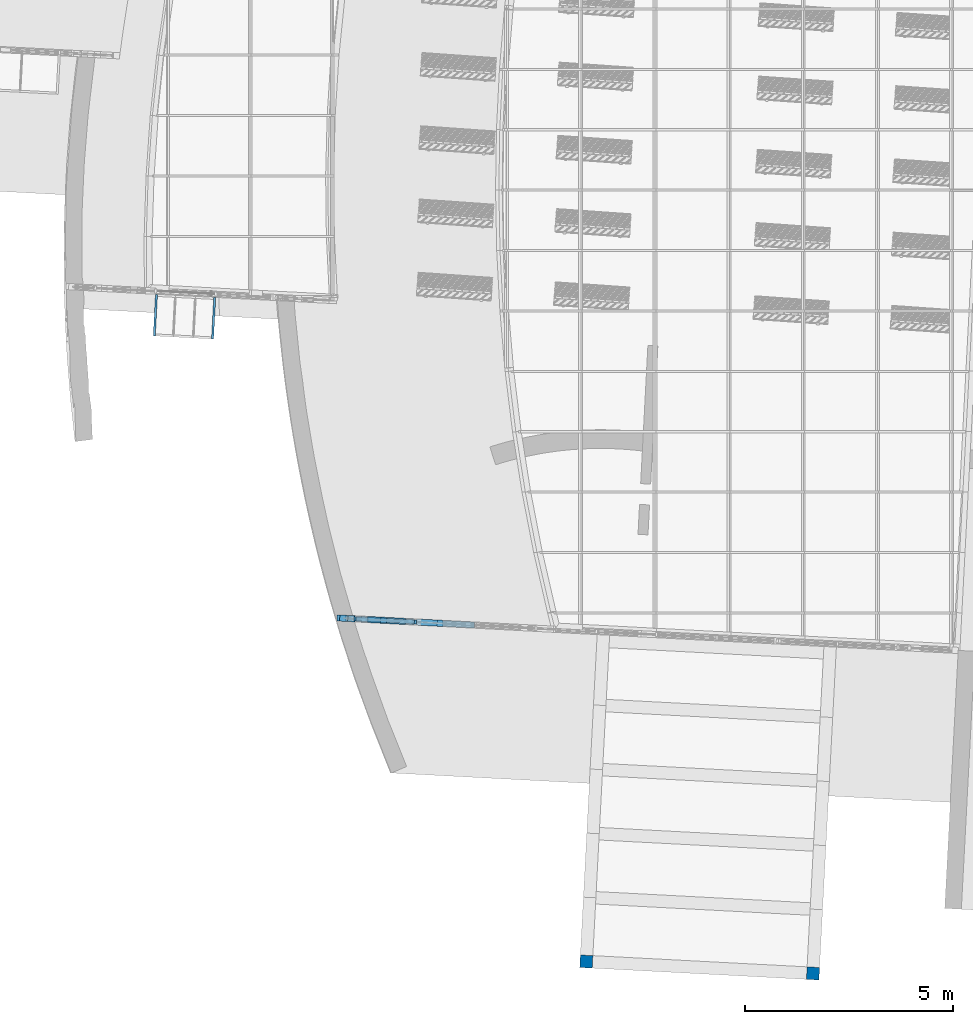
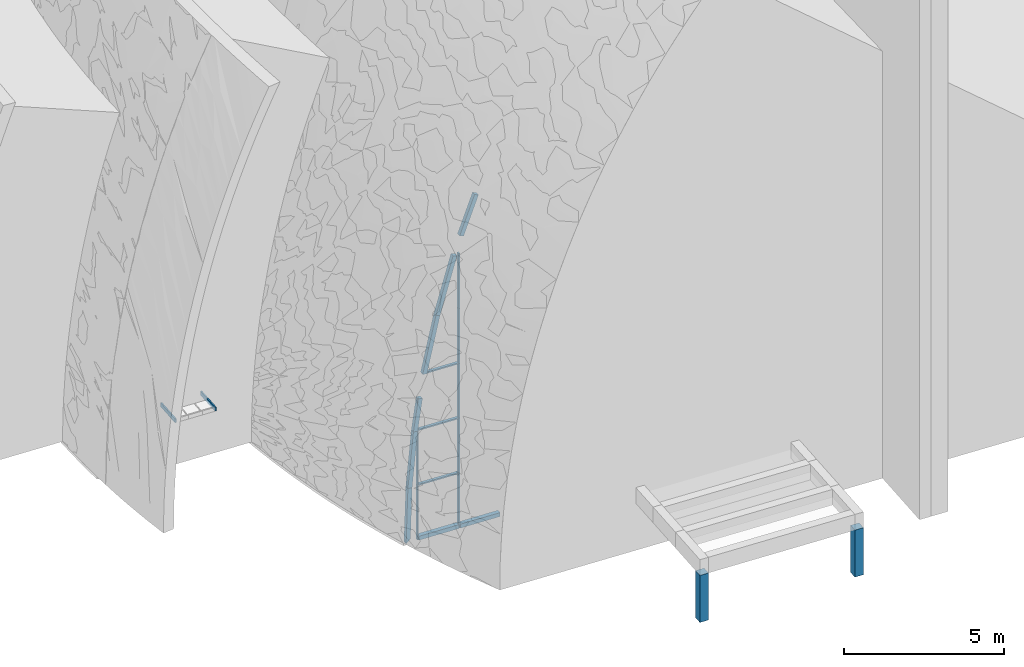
# One storey, part 1 of 82: 21 members, 2 columns, 2 elements without a shape of their own.
"""IFC2X3 building model written with IfcOpenShell, lengths in millimetres."""

from ifc_helpers import new_model, entity, si_unit, converted_unit, derived_unit, direction, frame, frame_2d, origin, origin_2d_with_axis, place, context, subcontext, project, spatial, rectangle, extrude, clip, halfspace, source, transform, mapped, material, type_object, type_shapes, element, aggregate, save


model = new_model("IFC2X3")

# Units and contexts
model_context = context("Model", 3, precision=0.01, world=origin(), true_north=direction((6.12303176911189e-17, 1.0)))
body_context = subcontext(model_context, "Body", "Model", "MODEL_VIEW")
ifc_project = project(units=[si_unit("LENGTHUNIT", "METRE", prefix="MILLI"), si_unit("AREAUNIT", "SQUARE_METRE"), si_unit("VOLUMEUNIT", "CUBIC_METRE"), converted_unit("PLANEANGLEUNIT", "DEGREE", entity("IfcRatioMeasure", 0.0174532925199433), si_unit("PLANEANGLEUNIT", "RADIAN"), dimensions=[0, 0, 0, 0, 0, 0, 0]), si_unit("MASSUNIT", "GRAM", prefix="KILO"), derived_unit("MASSDENSITYUNIT", [(si_unit("MASSUNIT", "GRAM", prefix="KILO"), 1), (si_unit("LENGTHUNIT", "METRE"), -3)]), si_unit("TIMEUNIT", "SECOND"), si_unit("FREQUENCYUNIT", "HERTZ"), si_unit("THERMODYNAMICTEMPERATUREUNIT", "DEGREE_CELSIUS"), derived_unit("THERMALTRANSMITTANCEUNIT", [(si_unit("MASSUNIT", "GRAM", prefix="KILO"), 1), (si_unit("THERMODYNAMICTEMPERATUREUNIT", "KELVIN"), -1), (si_unit("TIMEUNIT", "SECOND"), -3)]), derived_unit("VOLUMETRICFLOWRATEUNIT", [(si_unit("LENGTHUNIT", "METRE"), 3), (si_unit("TIMEUNIT", "SECOND"), -1)]), si_unit("ELECTRICCURRENTUNIT", "AMPERE"), si_unit("ELECTRICVOLTAGEUNIT", "VOLT"), si_unit("POWERUNIT", "WATT"), si_unit("FORCEUNIT", "NEWTON", prefix="KILO"), si_unit("ILLUMINANCEUNIT", "LUX"), si_unit("LUMINOUSFLUXUNIT", "LUMEN"), si_unit("LUMINOUSINTENSITYUNIT", "CANDELA"), derived_unit("USERDEFINED", [(si_unit("MASSUNIT", "GRAM", prefix="KILO"), -1), (si_unit("LENGTHUNIT", "METRE"), -2), (si_unit("TIMEUNIT", "SECOND"), 3), (si_unit("LUMINOUSFLUXUNIT", "LUMEN"), 1)]), derived_unit("LINEARVELOCITYUNIT", [(si_unit("LENGTHUNIT", "METRE"), 1), (si_unit("TIMEUNIT", "SECOND"), -1)]), si_unit("PRESSUREUNIT", "PASCAL"), derived_unit("USERDEFINED", [(si_unit("LENGTHUNIT", "METRE"), -2), (si_unit("MASSUNIT", "GRAM", prefix="KILO"), 1), (si_unit("TIMEUNIT", "SECOND"), -2)])], contexts=[model_context])

# Site, building, storey
site_placement = place(None, origin())
site = spatial("IfcSite", under=ifc_project, at=site_placement, Name="表面", CompositionType="ELEMENT")
building_placement = place(site_placement, origin())
building = spatial("IfcBuilding", under=site, at=building_placement, CompositionType="ELEMENT")
storey_placement = place(building_placement, origin())
storey = spatial("IfcBuildingStorey", under=building, at=storey_placement, Name="1F", CompositionType="ELEMENT", Elevation=0.0)

# Columns
ifc_material_1 = material(Name="柱")
column_type_1 = type_object("IfcColumnType", Name="300 x 300mm", PredefinedType="COLUMN")
shared_shape_1 = source(origin(), body_context, "Body", "SweptSolid", [
    extrude(rectangle(XDim=300.000000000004, YDim=299.999999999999, at=frame_2d((1.27897692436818e-13, -2.1600499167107e-12), x_axis=(1.0, 0.0))), frame((-23246.1615271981, -36540.7219186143, 0.0), z_axis=(0.0, 0.0, 1.0), x_axis=(0.0523359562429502, 0.998629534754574, 0.0)), (0.0, 0.0, 1.0), 1800.00000000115),
])
type_shapes(column_type_1, [shared_shape_1])
column_1_placement = place(storey_placement, origin())
element("IfcColumn", 1, at=column_1_placement, inside=storey, type_object=column_type_1, material=ifc_material_1, Name="矩形柱:300 x 300mm", ObjectType="300 x 300mm", context=body_context, shape_type="MappedRepresentation", body=[
    mapped(shared_shape_1, transform((0.0, 0.0, 0.0), scale=1.0)),
])
column_type_2 = type_object("IfcColumnType", Name="300 x 300mm", PredefinedType="COLUMN")
shared_shape_2 = source(origin(), body_context, "Body", "SweptSolid", [
    extrude(rectangle(XDim=300.000000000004, YDim=299.999999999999, at=frame_2d((1.27897692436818e-13, -2.1600499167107e-12), x_axis=(1.0, 0.0))), frame((-28688.6924916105, -36255.4909570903, 0.0), z_axis=(0.0, 0.0, 1.0), x_axis=(0.0523359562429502, 0.998629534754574, 0.0)), (0.0, 0.0, 1.0), 1800.00000000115),
])
type_shapes(column_type_2, [shared_shape_2])
column_2_placement = place(storey_placement, origin())
element("IfcColumn", 2, at=column_2_placement, inside=storey, type_object=column_type_2, material=ifc_material_1, Name="矩形柱:300 x 300mm", ObjectType="300 x 300mm", context=body_context, shape_type="MappedRepresentation", body=[
    mapped(shared_shape_2, transform((0.0, 0.0, 0.0), scale=1.0)),
])

# Curtain wall, members
curtain_wall_type_1 = type_object("IfcCurtainWallType", Name="幕墙系统:1450 x 2100mm", PredefinedType="NOTDEFINED")
curtain_wall_placement = place(storey_placement, origin())
curtain_wall = element("IfcCurtainWall", 3, at=curtain_wall_placement, inside=storey, type_object=curtain_wall_type_1, Name="幕墙系统:1450 x 2100mm", ObjectType="幕墙系统:1450 x 2100mm")
ifc_material_2 = material(Name="金属 - 铝")
member_type_1 = type_object("IfcMemberType", Name="50 x 100mm", PredefinedType="MEMBER")
shared_shape_3 = source(origin(), body_context, "Body", "SweptSolid", [
    extrude(rectangle(XDim=100.0, YDim=50.0, at=origin_2d_with_axis()), frame((0.0, 0.0, -1400.0), z_axis=(0.0, 0.0, 1.0), x_axis=(0.0, -1.0, 0.0)), (0.0, 0.0, 1.0), 1400.0),
])
type_shapes(member_type_1, [shared_shape_3])
member_1_placement = place(storey_placement, frame((-32817.6944215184, -28103.2232932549, 2100.0), z_axis=(0.998629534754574, -0.0523359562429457, 0.0), x_axis=(0.0, 0.0, 1.0)))
member_1 = element("IfcMember", 4, at=member_1_placement, type_object=member_type_1, material=ifc_material_2, Name="矩形竖梃:50 x 100mm", ObjectType="50 x 100mm", context=body_context, shape_type="MappedRepresentation", body=[
    mapped(shared_shape_3, transform((0.0, 0.0, 0.0), scale=1.0)),
])
placement_1 = place(building_placement, frame((0.0, 0.0, 3000.0)))
member_2_placement = place(placement_1, frame((-32817.6944215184, -28103.2232932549, 1200.0), z_axis=(0.998629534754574, -0.0523359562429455, 0.0), x_axis=(0.0, 0.0, 1.0)))
member_2 = element("IfcMember", 5, at=member_2_placement, type_object=member_type_1, material=ifc_material_2, Name="矩形竖梃:50 x 100mm", ObjectType="50 x 100mm", context=body_context, shape_type="MappedRepresentation", body=[
    mapped(shared_shape_3, transform((0.0, 0.0, 0.0), scale=1.0)),
])
member_type_2 = type_object("IfcMemberType", Name="50 x 100mm", PredefinedType="MEMBER")
shared_shape_4 = source(origin(), body_context, "Body", "SweptSolid", [
    extrude(rectangle(XDim=100.0, YDim=50.0, at=origin_2d_with_axis()), frame((0.0, 0.0, -2100.0), z_axis=(0.0, 0.0, 1.0), x_axis=(0.0, -1.0, 0.0)), (0.0, 0.0, 1.0), 2100.0),
])
type_shapes(member_type_2, [shared_shape_4])
member_3_placement = place(storey_placement, frame((-32792.7286831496, -28104.5316921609, 2100.0), z_axis=(0.0, 0.0, 1.0), x_axis=(-0.998629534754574, 0.0523359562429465, 0.0)))
member_3 = element("IfcMember", 6, at=member_3_placement, type_object=member_type_2, material=ifc_material_2, Name="矩形竖梃:50 x 100mm", ObjectType="50 x 100mm", context=body_context, shape_type="MappedRepresentation", body=[
    mapped(shared_shape_4, transform((0.0, 0.0, 0.0), scale=1.0)),
])
member_4_placement = place(storey_placement, frame((-34240.7415085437, -28028.6445556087, 2100.0), z_axis=(0.0, 0.0, 1.0), x_axis=(-0.998629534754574, 0.0523359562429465, 0.0)))
member_4 = element("IfcMember", 7, at=member_4_placement, type_object=member_type_2, material=ifc_material_2, Name="矩形竖梃:50 x 100mm", ObjectType="50 x 100mm", context=body_context, shape_type="MappedRepresentation", body=[
    mapped(shared_shape_4, transform((0.0, 0.0, 0.0), scale=1.0)),
])
member_type_3 = type_object("IfcMemberType", Name="50 x 100mm", PredefinedType="MEMBER")
shared_shape_5 = source(origin(), body_context, "Body", "SweptSolid", [
    extrude(rectangle(XDim=100.0, YDim=50.0, at=origin_2d_with_axis()), frame((0.0, 0.0, -2100.0), z_axis=(0.0, 0.0, 1.0), x_axis=(0.0, -1.0, 0.0)), (0.0, 0.0, 1.0), 2100.0),
])
type_shapes(member_type_3, [shared_shape_5])
member_5_placement = place(storey_placement, frame((-32792.7286831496, -28104.5316921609, 4200.0), z_axis=(0.0, 0.0, 1.0), x_axis=(-0.998629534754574, 0.0523359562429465, 0.0)))
member_5 = element("IfcMember", 8, at=member_5_placement, type_object=member_type_3, material=ifc_material_2, Name="矩形竖梃:50 x 100mm", ObjectType="50 x 100mm", context=body_context, shape_type="MappedRepresentation", body=[
    mapped(shared_shape_5, transform((0.0, 0.0, 0.0), scale=1.0)),
])
member_6_placement = place(storey_placement, frame((-34240.7415085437, -28028.6445556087, 4200.0), z_axis=(0.0, 0.0, 1.0), x_axis=(-0.998629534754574, 0.0523359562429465, 0.0)))
member_6 = element("IfcMember", 9, at=member_6_placement, type_object=member_type_3, material=ifc_material_2, Name="矩形竖梃:50 x 100mm", ObjectType="50 x 100mm", context=body_context, shape_type="MappedRepresentation", body=[
    mapped(shared_shape_5, transform((0.0, 0.0, 0.0), scale=1.0)),
])
member_7_placement = place(placement_1, frame((-32792.7286831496, -28104.5316921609, 3300.0), z_axis=(0.0, 0.0, 1.0), x_axis=(-0.998629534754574, 0.0523359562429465, 0.0)))
member_7 = element("IfcMember", 10, at=member_7_placement, type_object=member_type_3, material=ifc_material_2, Name="矩形竖梃:50 x 100mm", ObjectType="50 x 100mm", context=body_context, shape_type="MappedRepresentation", body=[
    mapped(shared_shape_5, transform((0.0, 0.0, 0.0), scale=1.0)),
])
placement_2 = place(building_placement, frame((0.0, 0.0, 6000.0)))
member_8_placement = place(placement_2, frame((-32792.7286831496, -28104.5316921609, 2400.0), z_axis=(0.0, 0.0, 1.0), x_axis=(-0.998629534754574, 0.0523359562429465, 0.0)))
member_8 = element("IfcMember", 11, at=member_8_placement, type_object=member_type_3, material=ifc_material_2, Name="矩形竖梃:50 x 100mm", ObjectType="50 x 100mm", context=body_context, shape_type="MappedRepresentation", body=[
    mapped(shared_shape_5, transform((0.0, 0.0, 0.0), scale=1.0)),
])
member_9_placement = place(placement_2, frame((-32792.7286831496, -28104.5316921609, 4500.0), z_axis=(0.0, 0.0, 1.0), x_axis=(-0.998629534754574, 0.0523359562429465, 0.0)))
member_9 = element("IfcMember", 12, at=member_9_placement, type_object=member_type_3, material=ifc_material_2, Name="矩形竖梃:50 x 100mm", ObjectType="50 x 100mm", context=body_context, shape_type="MappedRepresentation", body=[
    mapped(shared_shape_5, transform((0.0, 0.0, 0.0), scale=1.0)),
])
ifc_material_3 = material(Name="木质 - 木材")
member_type_4 = type_object("IfcMemberType", Name="200 x 150mm", PredefinedType="MEMBER")
shared_shape_6 = source(origin(), body_context, "Body", "SweptSolid", [
    extrude(rectangle(XDim=150.0, YDim=150.0, at=origin_2d_with_axis()), frame((-75.0, 0.0, -1400.0), z_axis=(0.0, 0.0, 1.0), x_axis=(0.0, -1.0, 0.0)), (0.0, 0.0, 1.0), 1400.0),
])
type_shapes(member_type_4, [shared_shape_6])
member_10_placement = place(storey_placement, frame((-32767.7629447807, -28105.840091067, 0.0), z_axis=(-0.998629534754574, 0.0523359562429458, 0.0), x_axis=(0.0, 0.0, -1.0)))
member_10 = element("IfcMember", 13, at=member_10_placement, type_object=member_type_4, material=ifc_material_3, Name="矩形竖梃:200 x 150mm", ObjectType="200 x 150mm", context=body_context, shape_type="MappedRepresentation", body=[
    mapped(shared_shape_6, transform((0.0, 0.0, 0.0), scale=1.0)),
])
member_11_placement = place(storey_placement, frame((-34215.7757701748, -28029.9529545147, 0.0), z_axis=(-0.998629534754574, 0.0523359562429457, 0.0), x_axis=(0.0, 0.0, -1.0)))
member_11 = element("IfcMember", 14, at=member_11_placement, type_object=member_type_4, material=ifc_material_3, Name="矩形竖梃:200 x 150mm", ObjectType="200 x 150mm", context=body_context, shape_type="MappedRepresentation", body=[
    mapped(shared_shape_6, transform((0.0, 0.0, 0.0), scale=1.0)),
])
member_type_5 = type_object("IfcMemberType", Name="200 x 150mm", PredefinedType="MEMBER")
shared_shape_7 = source(origin(), body_context, "Body", "Clipping", [
    clip(clip(extrude(rectangle(XDim=150.0, YDim=150.0, at=origin_2d_with_axis()), frame((-75.0, 0.0, -1225.06973785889), z_axis=(0.0, 0.0, 1.0), x_axis=(0.0, -1.0, 0.0)), (0.0, 0.0, 1.0), 1225.06973785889), halfspace(frame((0.0, -304.800000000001, -1225.06973785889), z_axis=(-0.0244063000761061, 0.0, -0.999702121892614), x_axis=(-0.999702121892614, 0.0, 0.0244063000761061)), False)), halfspace(frame((0.0, -304.800000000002, 0.0), z_axis=(-0.0155593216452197, 0.0, 0.999878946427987), x_axis=(-0.999878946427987, 0.0, -0.0155593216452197)), False)),
])
type_shapes(member_type_5, [shared_shape_7])
member_12_placement = place(placement_1, frame((-34240.7415085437, -28028.6445556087, 2412.87304346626), z_axis=(0.140564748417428, -0.00736668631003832, 0.990044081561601), x_axis=(-0.988687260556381, 0.0518149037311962, 0.140757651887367)))
member_12 = element("IfcMember", 15, at=member_12_placement, type_object=member_type_5, material=ifc_material_3, Name="矩形竖梃:200 x 150mm", ObjectType="200 x 150mm", context=body_context, shape_type="MappedRepresentation", body=[
    mapped(shared_shape_7, transform((0.0, 0.0, 0.0), scale=1.0)),
])
member_type_6 = type_object("IfcMemberType", Name="200 x 150mm", PredefinedType="MEMBER")
shared_shape_8 = source(origin(), body_context, "Body", "Clipping", [
    clip(clip(extrude(rectangle(XDim=150.0, YDim=150.0, at=origin_2d_with_axis()), frame((-75.0, 0.0, -2100.99413603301), z_axis=(0.0, 0.0, 1.0), x_axis=(0.0, -1.0, 0.0)), (0.0, 0.0, 1.0), 2100.99413603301), halfspace(frame((0.0, -304.8, -2100.99413603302), z_axis=(-0.717899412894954, 0.0, -0.696146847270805), x_axis=(-0.696146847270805, 0.0, 0.717899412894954)), False)), halfspace(frame((0.0, -304.799999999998, 0.0), z_axis=(-0.0308177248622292, 0.0, 0.999525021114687), x_axis=(-0.999525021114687, 0.0, -0.0308177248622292)), False)),
])
type_shapes(member_type_6, [shared_shape_8])
member_13_placement = place(storey_placement, frame((-34607.2900102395, -28009.4345626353, 2100.0), z_axis=(0.0307169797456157, -0.00160980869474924, 0.999526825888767), x_axis=(-0.998157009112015, 0.0523111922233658, 0.0307591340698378)))
member_13 = element("IfcMember", 16, at=member_13_placement, type_object=member_type_6, material=ifc_material_3, Name="矩形竖梃:200 x 150mm", ObjectType="200 x 150mm", context=body_context, shape_type="MappedRepresentation", body=[
    mapped(shared_shape_8, transform((0.0, 0.0, 0.0), scale=1.0)),
])
member_type_7 = type_object("IfcMemberType", Name="200 x 150mm", PredefinedType="MEMBER")
shared_shape_9 = source(origin(), body_context, "Body", "Clipping", [
    clip(clip(extrude(rectangle(XDim=150.0, YDim=150.0, at=origin_2d_with_axis()), frame((-75.0, 0.0, -2108.99844730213), z_axis=(0.0, 0.0, 1.0), x_axis=(0.0, -1.0, 0.0)), (0.0, 0.0, 1.0), 2108.99844730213), halfspace(frame((0.0, -304.799999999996, -2108.99844730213), z_axis=(-0.0308177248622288, 0.0, -0.999525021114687), x_axis=(-0.999525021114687, 0.0, 0.0308177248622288)), False)), halfspace(frame((0.0, -304.8, 0.0), z_axis=(-0.0244063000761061, 0.0, 0.999702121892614), x_axis=(-0.999702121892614, 0.0, -0.0244063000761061)), False)),
])
type_shapes(member_type_7, [shared_shape_9])
member_14_placement = place(storey_placement, frame((-34412.9431280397, -28019.6198511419, 4200.0), z_axis=(0.0921512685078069, -0.00482944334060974, 0.99573330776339), x_axis=(-0.994368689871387, 0.0521126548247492, 0.0922777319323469)))
member_14 = element("IfcMember", 17, at=member_14_placement, type_object=member_type_7, material=ifc_material_3, Name="矩形竖梃:200 x 150mm", ObjectType="200 x 150mm", context=body_context, shape_type="MappedRepresentation", body=[
    mapped(shared_shape_9, transform((0.0, 0.0, 0.0), scale=1.0)),
])
member_type_8 = type_object("IfcMemberType", Name="200 x 150mm", PredefinedType="MEMBER")
shared_shape_10 = source(origin(), body_context, "Body", "Clipping", [
    clip(clip(extrude(rectangle(XDim=150.0, YDim=150.0, at=frame_2d((-1.4210854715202e-14, 7.105427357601e-14), x_axis=(1.0, 0.0))), frame((-75.0, 0.0, -2150.44109468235), z_axis=(0.0, 0.0, 1.0), x_axis=(0.0, -1.0, 0.0)), (0.0, 0.0, 1.0), 2150.44109468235), halfspace(frame((0.0, -304.8, -2150.44109468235), z_axis=(-0.0223339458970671, 0.0, -0.999750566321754), x_axis=(-0.999750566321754, 0.0, 0.0223339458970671)), False)), halfspace(frame((0.0, -304.800000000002, 0.0), z_axis=(-0.0317390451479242, 0.0, 0.999496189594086), x_axis=(-0.999496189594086, 0.0, -0.0317390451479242)), False)),
])
type_shapes(member_type_8, [shared_shape_10])
member_15_placement = place(placement_2, frame((-33624.1322970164, -28060.9596750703, 2400.0), z_axis=(0.215023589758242, -0.0112689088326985, 0.97654383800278), x_axis=(-0.975205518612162, 0.0511083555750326, 0.215318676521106)))
member_15 = element("IfcMember", 18, at=member_15_placement, type_object=member_type_8, material=ifc_material_3, Name="矩形竖梃:200 x 150mm", ObjectType="200 x 150mm", context=body_context, shape_type="MappedRepresentation", body=[
    mapped(shared_shape_10, transform((0.0, 0.0, 0.0), scale=1.0)),
])
member_type_9 = type_object("IfcMemberType", Name="200 x 150mm", PredefinedType="MEMBER")
shared_shape_11 = source(origin(), body_context, "Body", "Clipping", [
    clip(clip(extrude(rectangle(XDim=150.0, YDim=150.0, at=origin_2d_with_axis()), frame((-75.0, 0.0, -2185.41650209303), z_axis=(0.0, 0.0, 1.0), x_axis=(0.0, -1.0, 0.0)), (0.0, 0.0, 1.0), 2185.41650209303), halfspace(frame((0.0, -304.799999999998, -2185.41650209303), z_axis=(-0.0317390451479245, 0.0, -0.999496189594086), x_axis=(-0.999496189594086, 0.0, 0.0317390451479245)), False)), halfspace(frame((0.0, -304.800000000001, 0.0), z_axis=(-0.0212459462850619, 0.0, 0.999774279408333), x_axis=(-0.999774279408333, 0.0, -0.0212459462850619)), False)),
])
type_shapes(member_type_9, [shared_shape_11])
member_16_placement = place(placement_2, frame((-33019.9446850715, -28092.6238060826, 4500.0), z_axis=(0.27646337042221, -0.0144888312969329, 0.96091522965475), x_axis=(-0.959598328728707, 0.0502904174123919, 0.276842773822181)))
member_16 = element("IfcMember", 19, at=member_16_placement, type_object=member_type_9, material=ifc_material_3, Name="矩形竖梃:200 x 150mm", ObjectType="200 x 150mm", context=body_context, shape_type="MappedRepresentation", body=[
    mapped(shared_shape_11, transform((0.0, 0.0, 0.0), scale=1.0)),
])
member_type_10 = type_object("IfcMemberType", Name="200 x 150mm", PredefinedType="MEMBER")
shared_shape_12 = source(origin(), body_context, "Body", "Clipping", [
    clip(clip(extrude(rectangle(XDim=150.0, YDim=150.0, at=frame_2d((-7.105427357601e-15, 0.0), x_axis=(1.0, 0.0))), frame((-75.0, 0.0, -1515.08219951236), z_axis=(0.0, 0.0, 1.0), x_axis=(0.0, -1.0, 0.0)), (0.0, 0.0, 1.0), 1515.08219951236), halfspace(frame((0.0, -304.800000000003, -1515.08219951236), z_axis=(-0.0163380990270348, 0.0, -0.999866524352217), x_axis=(-0.999866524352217, 0.0, 0.0163380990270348)), False)), halfspace(frame((0.0, -304.799999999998, 0.0), z_axis=(-0.0278628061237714, 0.0, 0.999611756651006), x_axis=(-0.999611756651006, 0.0, -0.0278628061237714)), False)),
])
type_shapes(member_type_10, [shared_shape_12])
placement_3 = place(building_placement, frame((0.0, 0.0, 9000.0)))
member_17_placement = place(placement_3, frame((-32265.8583683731, -28132.1437953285, 3600.0), z_axis=(0.347750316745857, -0.018224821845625, 0.93741003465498), x_axis=(-0.936125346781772, 0.0490602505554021, 0.348227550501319)))
member_17 = element("IfcMember", 20, at=member_17_placement, type_object=member_type_10, material=ifc_material_3, Name="矩形竖梃:200 x 150mm", ObjectType="200 x 150mm", context=body_context, shape_type="MappedRepresentation", body=[
    mapped(shared_shape_12, transform((0.0, 0.0, 0.0), scale=1.0)),
])
member_type_11 = type_object("IfcMemberType", Name="50 x 100mm", PredefinedType="MEMBER")
shared_shape_13 = source(origin(), body_context, "Body", "Clipping", [
    clip(extrude(rectangle(XDim=100.0, YDim=50.0, at=origin_2d_with_axis()), frame((0.0, 0.0, -1122.48404585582), z_axis=(0.0, 0.0, 1.0), x_axis=(0.0, -1.0, 0.0)), (0.0, 0.0, 1.0), 1122.48404585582), halfspace(frame((2067.70219852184, 75.0, -661.063011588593), z_axis=(0.215318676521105, 0.0, -0.97654383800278), x_axis=(-0.97654383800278, 0.0, -0.215318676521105)), False)),
])
type_shapes(member_type_11, [shared_shape_13])
member_18_placement = place(placement_2, frame((-32817.6944215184, -28103.2232932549, 300.0), z_axis=(0.998629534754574, -0.0523359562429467, 0.0), x_axis=(0.0, 0.0, 1.0)))
member_18 = element("IfcMember", 21, at=member_18_placement, type_object=member_type_11, material=ifc_material_2, Name="矩形竖梃:50 x 100mm", ObjectType="50 x 100mm", context=body_context, shape_type="MappedRepresentation", body=[
    mapped(shared_shape_13, transform((0.0, 0.0, 0.0), scale=1.0)),
])
member_type_12 = type_object("IfcMemberType", Name="50 x 100mm", PredefinedType="MEMBER")
shared_shape_14 = source(origin(), body_context, "Body", "SweptSolid", [
    extrude(rectangle(XDim=100.0, YDim=50.0, at=origin_2d_with_axis()), frame((0.0, 0.0, -1212.87304346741), z_axis=(0.0, 0.0, 1.0), x_axis=(0.0, -1.0, 0.0)), (0.0, 0.0, 1.0), 1212.87304346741),
])
type_shapes(member_type_12, [shared_shape_14])
member_19_placement = place(placement_1, frame((-34240.7415085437, -28028.6445556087, 2412.87304346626), z_axis=(0.0, 0.0, 1.0), x_axis=(-0.998629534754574, 0.0523359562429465, 0.0)))
member_19 = element("IfcMember", 22, at=member_19_placement, type_object=member_type_12, material=ifc_material_2, Name="矩形竖梃:50 x 100mm", ObjectType="50 x 100mm", context=body_context, shape_type="MappedRepresentation", body=[
    mapped(shared_shape_14, transform((0.0, 0.0, 0.0), scale=1.0)),
])
aggregate(curtain_wall, [member_10, member_11, member_12, member_13, member_14, member_15, member_16, member_17, member_1, member_2, member_18, member_19, member_3, member_4, member_5, member_6, member_7, member_8, member_9])

# Roof, members
curtain_wall_type_2 = type_object("IfcCurtainWallType", Name="玻璃斜窗:玻璃斜窗 2", PredefinedType="NOTDEFINED")
roof_placement = place(storey_placement, origin())
roof = element("IfcRoof", 23, at=roof_placement, inside=storey, type_object=curtain_wall_type_2, Name="玻璃斜窗:玻璃斜窗 2", ObjectType="玻璃斜窗:玻璃斜窗 2", ShapeType="NOTDEFINED")
member_type_13 = type_object("IfcMemberType", Name="50 x 150mm", PredefinedType="MEMBER")
shared_shape_15 = source(origin(), body_context, "Body", "SweptSolid", [
    extrude(rectangle(XDim=150.0, YDim=50.0, at=origin_2d_with_axis()), frame((-25.0, 0.0, -1000.0), z_axis=(0.0, 0.0, 1.0), x_axis=(0.0, -1.0, 0.0)), (0.0, 0.0, 1.0), 999.999999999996),
])
type_shapes(member_type_13, [shared_shape_15])
member_20_placement = place(storey_placement, frame((-39082.7251281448, -21237.3607107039, 2100.0), z_axis=(-0.0523359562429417, -0.998629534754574, 0.0), x_axis=(-0.998629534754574, 0.0523359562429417, 0.0)))
member_20 = element("IfcMember", 24, at=member_20_placement, type_object=member_type_13, material=ifc_material_2, Name="矩形竖梃:50 x 150mm", ObjectType="50 x 150mm", context=body_context, shape_type="MappedRepresentation", body=[
    mapped(shared_shape_15, transform((0.0, 0.0, 0.0), scale=1.0)),
])
member_21_placement = place(storey_placement, frame((-37582.3763465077, -20314.6183125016, 2100.0), z_axis=(0.0523359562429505, 0.998629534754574, 0.0), x_axis=(0.998629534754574, -0.0523359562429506, 0.0)))
member_21 = element("IfcMember", 25, at=member_21_placement, type_object=member_type_13, material=ifc_material_2, Name="矩形竖梃:50 x 150mm", ObjectType="50 x 150mm", context=body_context, shape_type="MappedRepresentation", body=[
    mapped(shared_shape_15, transform((0.0, 0.0, 0.0), scale=1.0)),
])
aggregate(roof, [member_20, member_21])

save(model, "model.ifc")
